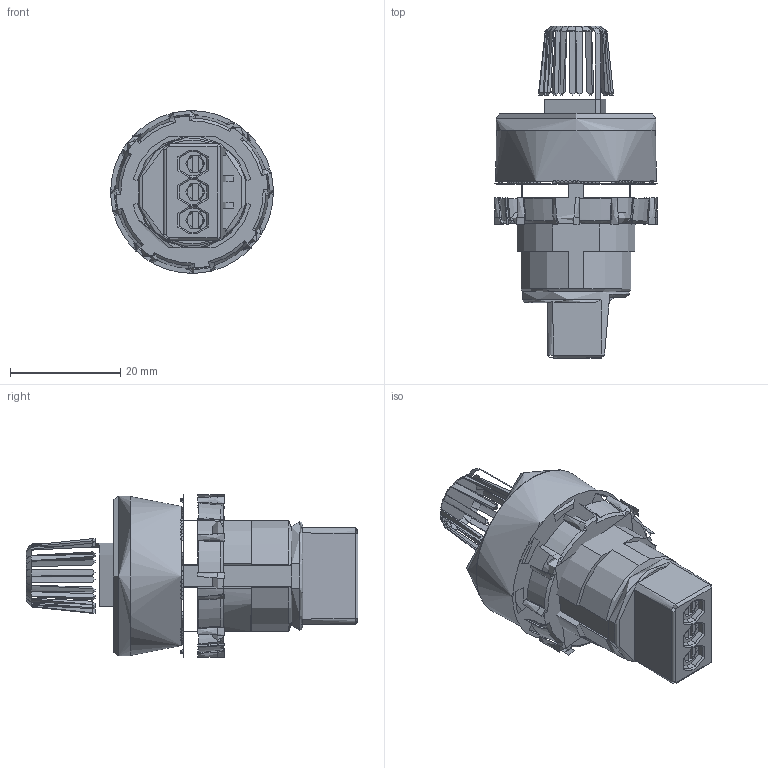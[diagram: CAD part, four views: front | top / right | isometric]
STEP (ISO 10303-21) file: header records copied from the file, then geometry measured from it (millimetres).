
FILE_DESCRIPTION((''),'2; 1');
FILE_NAME('','2026-03-26T14:11:57',(''),(''),'CST STEP Exporter V1.0','Unknown','');
FILE_SCHEMA(('CONFIG_CONTROL_DESIGN'));
Length unit declared in the file: metre
Assembly tree (7 placements, depth 2):
  (unnamed)
    (unnamed)
    (unnamed)
    (unnamed)
    (unnamed)
    (unnamed)
    (unnamed)
    (unnamed)
Bounding box: 29.5 x 60.1 x 29.5 mm (x, y, z)
Topology: 0 solids, 92 shells, 340 faces, 1169 edges, 891 vertices
Faces by surface type: plane 139, cylinder 87, torus 56, bspline 33, cone 23, extrusion 2
Full cylindrical faces by diameter (mm): 2 x16, 3 x3, 3.5 x3, 23.8 x1, 28.9 x1, 29.5 x1
Entity records: 21208 total; most frequent: CARTESIAN_POINT 8159, ORIENTED_EDGE 2007, DIRECTION 1866, EDGE_CURVE 1185, VERTEX_POINT 852, AXIS2_PLACEMENT_3D 712, VECTOR 442, LINE 440
